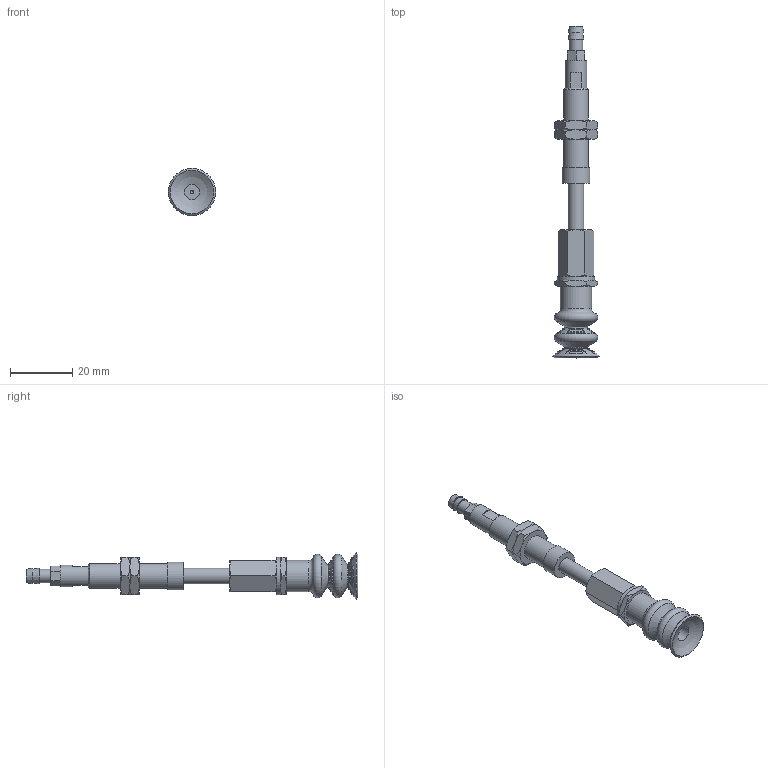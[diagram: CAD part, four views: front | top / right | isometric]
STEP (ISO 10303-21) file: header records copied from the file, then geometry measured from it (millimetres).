
FILE_DESCRIPTION(('STEP AP203'),'1');
FILE_NAME('-T.stp','2025-08-27T02:16:01',(' '),(' '),'Spatial InterOp 3D',' ',' ');
FILE_SCHEMA(('CONFIG_CONTROL_DESIGN'));
Length unit declared in the file: millimetre
Products named in the file (8): BNABPCTS-15-15-※-T; ADAPTER; NAPCTS-10-15-MBODY; Adapter_napc-15-T; Nut napc_s-15-15; NAPCTS-15-15-FBODY; BPCG-15-※; T
Assembly tree (8 placements, depth 2):
  BNABPCTS-15-15-※-T
    ADAPTER
    NAPCTS-10-15-MBODY
    Adapter_napc-15-T
    Nut napc_s-15-15  x2
    NAPCTS-15-15-FBODY
    BPCG-15-※
    T
Bounding box: 15.2 x 106.7 x 15.2 mm (x, y, z)
Volume: 6232.5 mm3; surface area: 6558.1 mm2
Topology: 8 solids, 8 shells, 238 faces, 693 edges, 446 vertices
Faces by surface type: cone 66, plane 60, sphere 58, torus 34, cylinder 20
Full cylindrical faces by diameter (mm): 1.25 x1, 3 x1, 4.134 x2, 4.3 x1, 5 x8, 7 x1, 7.188 x2, 8 x1, 9 x1, 10 x1, 12 x1
Entity records: 6789 total; most frequent: CARTESIAN_POINT 1928, DIRECTION 980, ORIENTED_EDGE 816, AXIS2_PLACEMENT_3D 468, EDGE_CURVE 408, EDGE_LOOP 306, VERTEX_POINT 289, CIRCLE 244
